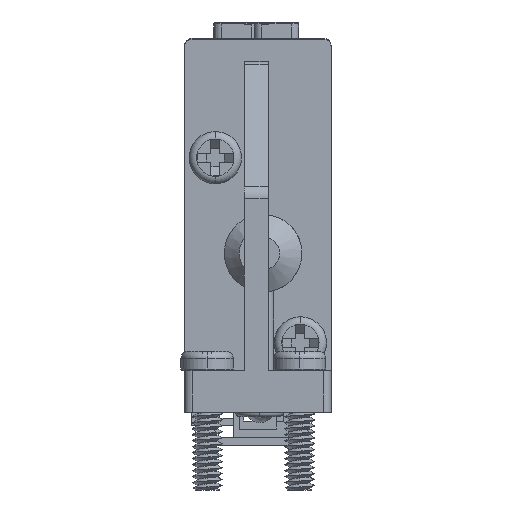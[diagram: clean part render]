
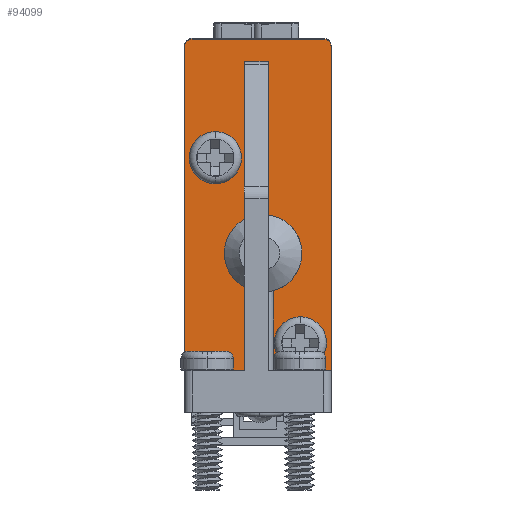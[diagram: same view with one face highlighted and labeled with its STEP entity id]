
A CAD part, left-side view. The second image highlights one B-rep face of the part: STEP entity #94099.
In plain terms, the highlighted planar face has unit normal (-1, 0, 0).
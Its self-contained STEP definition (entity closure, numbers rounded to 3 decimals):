
#19979=CARTESIAN_POINT('',(-23.5,0.5,12.05));
#19980=DIRECTION('',(-1.,0.,0.));
#19981=DIRECTION('',(0.,-1.,0.));
#19982=AXIS2_PLACEMENT_3D('',#19979,#19980,#19981);
#19984=DIRECTION('',(0.,0.,1.));
#19985=VECTOR('',#19984,5.346);
#19986=CARTESIAN_POINT('',(-23.5,3.85,-9.65));
#19987=LINE('',#19986,#19985);
#19988=CARTESIAN_POINT('',(-23.5,4.55,-1.8));
#19989=DIRECTION('',(1.,0.,0.));
#19990=DIRECTION('',(0.,-0.135,0.991));
#19991=AXIS2_PLACEMENT_3D('',#19988,#19989,#19990);
#19993=DIRECTION('',(0.,0.,1.));
#19994=VECTOR('',#19993,10.274);
#19995=CARTESIAN_POINT('',(-23.5,4.2,0.776));
#19996=LINE('',#19995,#19994);
#19997=DIRECTION('',(0.,-1.,0.));
#19998=VECTOR('',#19997,1.6);
#19999=CARTESIAN_POINT('',(-23.5,5.8,11.05));
#20000=LINE('',#19999,#19998);
#20001=DIRECTION('',(0.,0.,1.));
#20002=VECTOR('',#20001,10.57);
#20003=CARTESIAN_POINT('',(-23.5,5.8,0.48));
#20004=LINE('',#20003,#20002);
#20005=CARTESIAN_POINT('',(-23.5,4.55,-1.8));
#20006=DIRECTION('',(1.,0.,0.));
#20007=DIRECTION('',(0.,0.481,-0.877));
#20008=AXIS2_PLACEMENT_3D('',#20005,#20006,#20007);
#20010=DIRECTION('',(0.,0.,1.));
#20011=VECTOR('',#20010,5.57);
#20012=CARTESIAN_POINT('',(-23.5,5.8,-9.65));
#20013=LINE('',#20012,#20011);
#20014=CARTESIAN_POINT('',(-23.5,9.3,12.05));
#20015=DIRECTION('',(-1.,0.,0.));
#20016=DIRECTION('',(0.,0.,1.));
#20017=AXIS2_PLACEMENT_3D('',#20014,#20015,#20016);
#20019=DIRECTION('',(0.,1.,0.));
#20020=VECTOR('',#20019,8.8);
#20021=CARTESIAN_POINT('',(-23.5,0.5,12.55));
#20022=LINE('',#20021,#20020);
#20023=CARTESIAN_POINT('',(-23.5,2.05,-7.8));
#20024=DIRECTION('',(1.,0.,0.));
#20025=DIRECTION('',(0.,0.,1.));
#20026=AXIS2_PLACEMENT_3D('',#20023,#20024,#20025);
#20028=CARTESIAN_POINT('',(-23.5,2.05,-7.8));
#20029=DIRECTION('',(1.,0.,0.));
#20030=DIRECTION('',(0.,0.,-1.));
#20031=AXIS2_PLACEMENT_3D('',#20028,#20029,#20030);
#20033=CARTESIAN_POINT('',(-23.5,7.75,4.6));
#20034=DIRECTION('',(1.,0.,0.));
#20035=DIRECTION('',(0.,0.,1.));
#20036=AXIS2_PLACEMENT_3D('',#20033,#20034,#20035);
#20038=CARTESIAN_POINT('',(-23.5,7.75,4.6));
#20039=DIRECTION('',(1.,0.,0.));
#20040=DIRECTION('',(0.,0.,-1.));
#20041=AXIS2_PLACEMENT_3D('',#20038,#20039,#20040);
#20063=DIRECTION('',(0.,0.,-1.));
#20064=VECTOR('',#20063,21.7);
#20065=CARTESIAN_POINT('',(-23.5,0.,12.05));
#20066=LINE('',#20065,#20064);
#20220=DIRECTION('',(0.,1.,0.));
#20221=VECTOR('',#20220,4.);
#20222=CARTESIAN_POINT('',(-23.5,5.8,-9.65));
#20223=LINE('',#20222,#20221);
#20277=DIRECTION('',(0.,0.,-1.));
#20278=VECTOR('',#20277,21.7);
#20279=CARTESIAN_POINT('',(-23.5,9.8,12.05));
#20280=LINE('',#20279,#20278);
#20794=DIRECTION('',(0.,1.,0.));
#20795=VECTOR('',#20794,3.85);
#20796=CARTESIAN_POINT('',(-23.5,0.,-9.65));
#20797=LINE('',#20796,#20795);
#78321=CARTESIAN_POINT('',(-23.5,5.8,-9.65));
#78323=VERTEX_POINT('',#78321);
#78325=CARTESIAN_POINT('',(-23.5,9.8,-9.65));
#78326=VERTEX_POINT('',#78325);
#78477=CARTESIAN_POINT('',(-23.5,5.8,11.05));
#78478=VERTEX_POINT('',#78477);
#78481=CARTESIAN_POINT('',(-23.5,5.8,-4.08));
#78482=VERTEX_POINT('',#78481);
#78483=CARTESIAN_POINT('',(-23.5,5.8,0.48));
#78484=VERTEX_POINT('',#78483);
#78505=CARTESIAN_POINT('',(-23.5,4.2,11.05));
#78506=VERTEX_POINT('',#78505);
#78517=CARTESIAN_POINT('',(-23.5,4.2,0.776));
#78518=VERTEX_POINT('',#78517);
#78527=CARTESIAN_POINT('',(-23.5,3.85,-9.65));
#78528=CARTESIAN_POINT('',(-23.5,3.85,-4.304));
#78529=VERTEX_POINT('',#78527);
#78530=VERTEX_POINT('',#78528);
#78531=CARTESIAN_POINT('',(-23.5,0.,-9.65));
#78532=VERTEX_POINT('',#78531);
#78541=CARTESIAN_POINT('',(-23.5,0.,12.05));
#78542=CARTESIAN_POINT('',(-23.5,0.5,12.55));
#78543=VERTEX_POINT('',#78541);
#78544=VERTEX_POINT('',#78542);
#78545=CARTESIAN_POINT('',(-23.5,9.3,12.55));
#78546=CARTESIAN_POINT('',(-23.5,9.8,12.05));
#78547=VERTEX_POINT('',#78545);
#78548=VERTEX_POINT('',#78546);
#78776=CARTESIAN_POINT('',(-23.5,2.05,-6.15));
#78777=CARTESIAN_POINT('',(-23.5,2.05,-9.45));
#78778=VERTEX_POINT('',#78776);
#78779=VERTEX_POINT('',#78777);
#78910=CARTESIAN_POINT('',(-23.5,7.75,6.25));
#78911=CARTESIAN_POINT('',(-23.5,7.75,2.95));
#78912=VERTEX_POINT('',#78910);
#78913=VERTEX_POINT('',#78911);
#94053=CARTESIAN_POINT('',(-23.5,0.,12.55));
#94054=DIRECTION('',(-1.,0.,0.));
#94055=DIRECTION('',(0.,0.,-1.));
#94056=AXIS2_PLACEMENT_3D('',#94053,#94054,#94055);
#94057=PLANE('',#94056);
#94058=ORIENTED_EDGE('',*,*,#94043,.F.);
#94060=ORIENTED_EDGE('',*,*,#94059,.T.);
#94062=ORIENTED_EDGE('',*,*,#94061,.T.);
#94064=ORIENTED_EDGE('',*,*,#94063,.T.);
#94066=ORIENTED_EDGE('',*,*,#94065,.F.);
#94068=ORIENTED_EDGE('',*,*,#94067,.T.);
#94070=ORIENTED_EDGE('',*,*,#94069,.F.);
#94072=ORIENTED_EDGE('',*,*,#94071,.F.);
#94074=ORIENTED_EDGE('',*,*,#94073,.F.);
#94076=ORIENTED_EDGE('',*,*,#94075,.F.);
#94078=ORIENTED_EDGE('',*,*,#94077,.T.);
#94080=ORIENTED_EDGE('',*,*,#94079,.F.);
#94082=ORIENTED_EDGE('',*,*,#94081,.F.);
#94084=ORIENTED_EDGE('',*,*,#94083,.F.);
#94085=EDGE_LOOP('',(#94058,#94060,#94062,#94064,#94066,#94068,#94070,#94072,
#94074,#94076,#94078,#94080,#94082,#94084));
#94086=FACE_OUTER_BOUND('',#94085,.F.);
#94088=ORIENTED_EDGE('',*,*,#94087,.F.);
#94090=ORIENTED_EDGE('',*,*,#94089,.F.);
#94091=EDGE_LOOP('',(#94088,#94090));
#94092=FACE_BOUND('',#94091,.F.);
#94094=ORIENTED_EDGE('',*,*,#94093,.F.);
#94096=ORIENTED_EDGE('',*,*,#94095,.F.);
#94097=EDGE_LOOP('',(#94094,#94096));
#94098=FACE_BOUND('',#94097,.F.);
#94099=ADVANCED_FACE('',(#94086,#94092,#94098),#94057,.T.);
#19983=CIRCLE('',#19982,0.5);
#19992=CIRCLE('',#19991,2.6);
#20009=CIRCLE('',#20008,2.6);
#20018=CIRCLE('',#20017,0.5);
#20027=CIRCLE('',#20026,1.65);
#20032=CIRCLE('',#20031,1.65);
#20037=CIRCLE('',#20036,1.65);
#20042=CIRCLE('',#20041,1.65);
#94043=EDGE_CURVE('',#78543,#78544,#19983,.T.);
#94059=EDGE_CURVE('',#78543,#78532,#20066,.T.);
#94061=EDGE_CURVE('',#78532,#78529,#20797,.T.);
#94063=EDGE_CURVE('',#78529,#78530,#19987,.T.);
#94065=EDGE_CURVE('',#78518,#78530,#19992,.T.);
#94067=EDGE_CURVE('',#78518,#78506,#19996,.T.);
#94069=EDGE_CURVE('',#78478,#78506,#20000,.T.);
#94071=EDGE_CURVE('',#78484,#78478,#20004,.T.);
#94073=EDGE_CURVE('',#78482,#78484,#20009,.T.);
#94075=EDGE_CURVE('',#78323,#78482,#20013,.T.);
#94077=EDGE_CURVE('',#78323,#78326,#20223,.T.);
#94079=EDGE_CURVE('',#78548,#78326,#20280,.T.);
#94081=EDGE_CURVE('',#78547,#78548,#20018,.T.);
#94083=EDGE_CURVE('',#78544,#78547,#20022,.T.);
#94087=EDGE_CURVE('',#78778,#78779,#20027,.T.);
#94089=EDGE_CURVE('',#78779,#78778,#20032,.T.);
#94093=EDGE_CURVE('',#78912,#78913,#20037,.T.);
#94095=EDGE_CURVE('',#78913,#78912,#20042,.T.);
